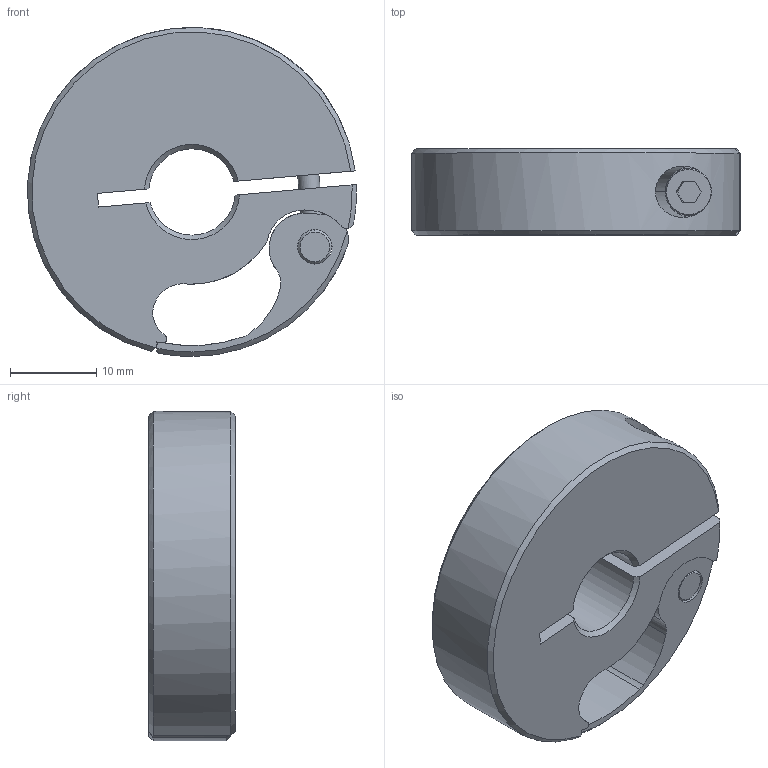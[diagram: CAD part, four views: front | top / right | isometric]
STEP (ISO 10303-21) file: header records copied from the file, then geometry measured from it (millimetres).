
FILE_DESCRIPTION((''),'2;1');
FILE_NAME('MQCL-10-A','2016-09-09T',('SYSTEM'),(''),'PRO/ENGINEER BY PARAMETRIC TECHNOLOGY CORPORATION, 2015110','PRO/ENGINEER BY PARAMETRIC TECHNOLOGY CORPORATION, 2015110','');
FILE_SCHEMA(('AUTOMOTIVE_DESIGN { 1 0 10303 214 1 1 1 1 }'));
Length unit declared in the file: inch
Products named in the file (1): MQCL-10-A
Bounding box: 38.08 x 10 x 38.1 mm (x, y, z)
Volume: 8752.1 mm3; surface area: 4834.1 mm2
Topology: 1 solids, 1 shells, 93 faces, 279 edges, 186 vertices
Faces by surface type: cylinder 46, plane 29, cone 18
Entity records: 4573 total; most frequent: CARTESIAN_POINT 901, ORIENTED_EDGE 558, DIRECTION 533, PRESENTATION_STYLE_ASSIGNMENT 309, STYLED_ITEM 280, CURVE_STYLE 279, EDGE_CURVE 279, AXIS2_PLACEMENT_3D 209
